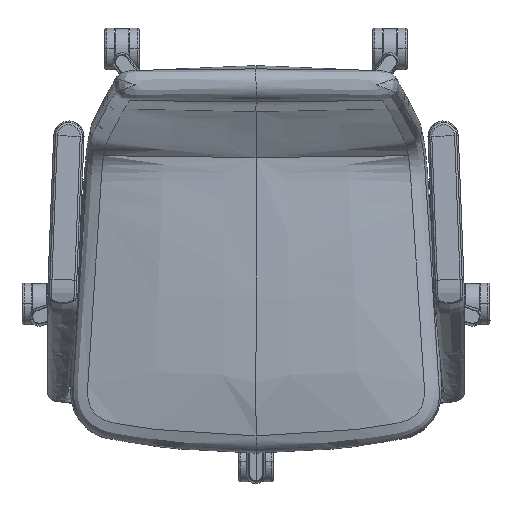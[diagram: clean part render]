
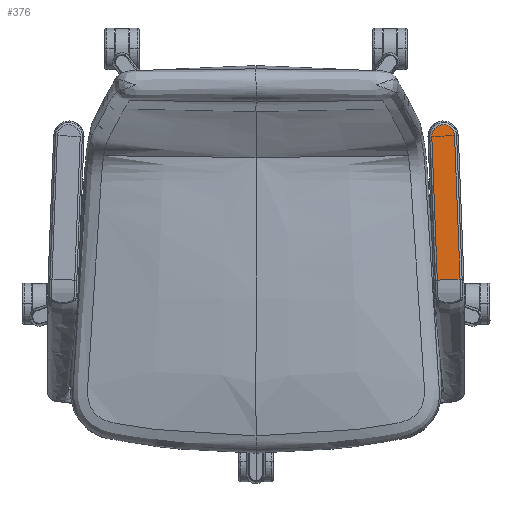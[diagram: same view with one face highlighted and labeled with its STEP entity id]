
A CAD part, top view. The second image highlights one B-rep face of the part: STEP entity #376.
In plain terms, the highlighted planar face has unit normal (-0.001, 0.019, 1).
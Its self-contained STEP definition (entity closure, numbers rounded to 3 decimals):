
#120=PLANE('',#5247);
#376=ADVANCED_FACE('',(#723),#120,.T.);
#723=FACE_OUTER_BOUND('',#1070,.T.);
#1070=EDGE_LOOP('',(#1820,#1821));
#1820=ORIENTED_EDGE('',*,*,#3084,.T.);
#1821=ORIENTED_EDGE('',*,*,#3091,.F.);
#3084=EDGE_CURVE('',#4593,#4588,#3641,.T.);
#3091=EDGE_CURVE('',#4593,#4588,#4062,.T.);
#3641=B_SPLINE_CURVE_WITH_KNOTS('',1,(#10519,#10520),.UNSPECIFIED.,.F.,
 .F.,(2,2),(0.077,0.923),.UNSPECIFIED.);
#4062=(
BOUNDED_CURVE()
B_SPLINE_CURVE(3,(#10582,#10583,#10584,#10585,#10586,#10587,#10588,#10589,
#10590,#10591,#10592,#10593,#10594,#10595,#10596,#10597,#10598,#10599,#10600,
#10601,#10602,#10603,#10604),.UNSPECIFIED.,.F.,.F.)
B_SPLINE_CURVE_WITH_KNOTS((4,3,3,1,1,1,1,1,1,1,3,3,4),(0.,
4.793,208.24,214.719,221.199,227.678,
234.157,240.637,247.116,253.596,260.075,
463.522,468.315),.UNSPECIFIED.)
CURVE()
GEOMETRIC_REPRESENTATION_ITEM()
RATIONAL_B_SPLINE_CURVE((1.,1.,1.,1.,1.,1.,1.,1.,1.,1.,1.,
1.,1.,1.,1.,1.,1.,1.,
1.,1.,1.,1.,1.))
REPRESENTATION_ITEM('')
);
#4588=VERTEX_POINT('',#10400);
#4593=VERTEX_POINT('',#10405);
#5247=AXIS2_PLACEMENT_3D('',#10042,#5336,$);
#5336=DIRECTION('',(-0.001,0.019,1.));
#10042=CARTESIAN_POINT('',(289.75,179.126,650.772));
#10400=CARTESIAN_POINT('',(295.503,-48.519,655.148));
#10405=CARTESIAN_POINT('',(262.527,-49.788,655.148));
#10519=CARTESIAN_POINT('',(262.527,-49.788,655.148));
#10520=CARTESIAN_POINT('',(295.503,-48.519,655.148));
#10582=CARTESIAN_POINT('',(262.527,-49.788,655.148));
#10583=CARTESIAN_POINT('',(262.466,-48.191,655.117));
#10584=CARTESIAN_POINT('',(262.404,-46.595,655.086));
#10585=CARTESIAN_POINT('',(262.343,-44.999,655.056));
#10586=CARTESIAN_POINT('',(259.738,22.754,653.753));
#10587=CARTESIAN_POINT('',(257.131,90.507,652.45));
#10588=CARTESIAN_POINT('',(254.526,158.26,651.147));
#10589=CARTESIAN_POINT('',(254.441,160.418,651.105));
#10590=CARTESIAN_POINT('',(255.135,164.766,651.022));
#10591=CARTESIAN_POINT('',(258.591,170.394,650.917));
#10592=CARTESIAN_POINT('',(263.938,174.272,650.846));
#10593=CARTESIAN_POINT('',(270.363,175.809,650.821));
#10594=CARTESIAN_POINT('',(276.886,174.77,650.846));
#10595=CARTESIAN_POINT('',(282.516,171.315,650.917));
#10596=CARTESIAN_POINT('',(286.394,165.968,651.022));
#10597=CARTESIAN_POINT('',(287.419,161.686,651.105));
#10598=CARTESIAN_POINT('',(287.501,159.528,651.147));
#10599=CARTESIAN_POINT('',(290.107,91.775,652.45));
#10600=CARTESIAN_POINT('',(292.713,24.022,653.753));
#10601=CARTESIAN_POINT('',(295.319,-43.731,655.056));
#10602=CARTESIAN_POINT('',(295.38,-45.327,655.086));
#10603=CARTESIAN_POINT('',(295.442,-46.923,655.117));
#10604=CARTESIAN_POINT('',(295.503,-48.519,655.148));
